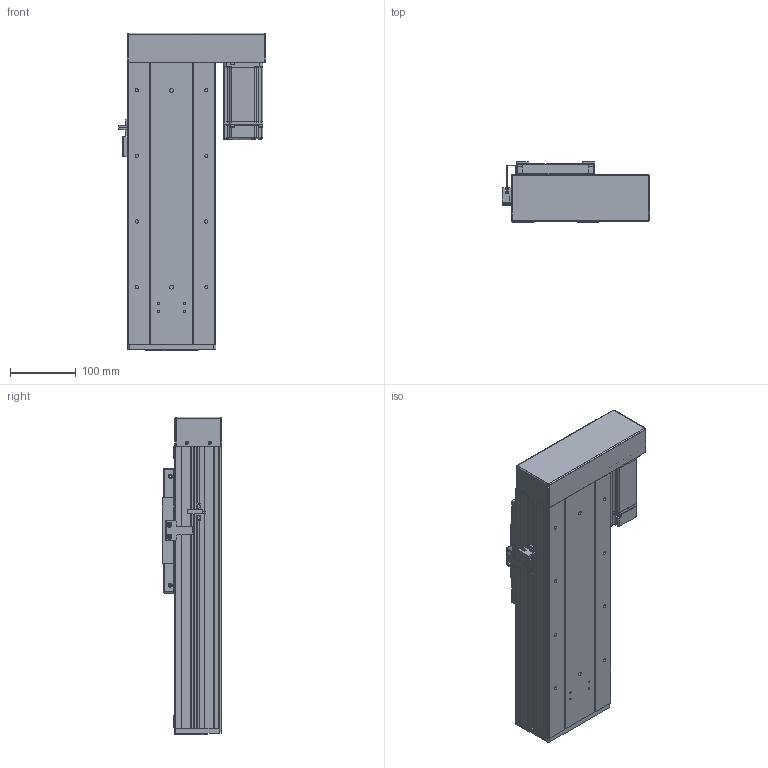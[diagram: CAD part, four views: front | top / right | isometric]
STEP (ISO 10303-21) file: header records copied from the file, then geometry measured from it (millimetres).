
FILE_DESCRIPTION (( 'STEP AP203' ), '1' );
FILE_NAME ('RY140F-L2020-300-RK.SLDASM_150.step', '2021-03-02T08:50:00', ( '盈信电脑' ), ( '东莞市道滘镇水果街19号' ), 'SwSTEP 2.0', 'SolidWorks 2012', '' );
FILE_SCHEMA (( 'CONFIG_CONTROL_DESIGN' ));
Products named in the file (19): RY140F-酘衵殏萇儂欶(400W); RY140F-L2020-300-RK.SLDASM_150; RY140F-左右折电机安装板(400W M5); 侐源滅袉蝶; RY140F-转折折电机座（7001）; RY140F-詩湍揤え; 15; RY140F-672覜茼んえ; 侂狟400W侜督萇儂; 覜茼ん672; RY140F-后盖板(铝件）; RY100F-詩湍揤踡謫; RY140F-直连型材铝滑块(16丝杆); RY140F-詩湍幗謫粣; RY140F-直连型材铝滑块连接座; RY140F-300-RK蛌殏詩湍_150; RY140F-滅鳥奻裔; RY140F-300-RK倰第菁釱_150; RY140F-300-RK倰第奻裔啣_150
Assembly tree (23 placements, depth 3):
  RY140F-L2020-300-RK.SLDASM_150
    RY140F-300-RK倰第菁釱_150
    RY140F-300-RK倰第奻裔啣_150  x2
    RY140F-300-RK蛌殏詩湍_150
    RY140F-直连型材铝滑块连接座
    RY140F-滅鳥奻裔
    RY140F-詩湍幗謫粣
    RY100F-詩湍揤踡謫
    RY140F-直连型材铝滑块(16丝杆)
    RY140F-后盖板(铝件）
    侂狟400W侜督萇儂
      15
    覜茼ん672
    RY140F-672覜茼んえ
    RY140F-詩湍揤え  x2
    侐源滅袉蝶  x4
    RY140F-转折折电机座（7001）
    RY140F-左右折电机安装板(400W M5)
    RY140F-酘衵殏萇儂欶(400W)
Bounding box: 224.7 x 91 x 484 mm (x, y, z)
Volume: 2468857.2 mm3; surface area: 865114.4 mm2
Topology: 22 solids, 22 shells, 1949 faces, 5325 edges, 3398 vertices
Faces by surface type: cylinder 936, plane 789, cone 194, bspline 26, torus 4
Entity records: 61779 total; most frequent: CARTESIAN_POINT 13183, DIRECTION 9822, ORIENTED_EDGE 9602, EDGE_CURVE 4801, AXIS2_PLACEMENT_3D 3501, VERTEX_POINT 3138, LINE 2820, VECTOR 2820
